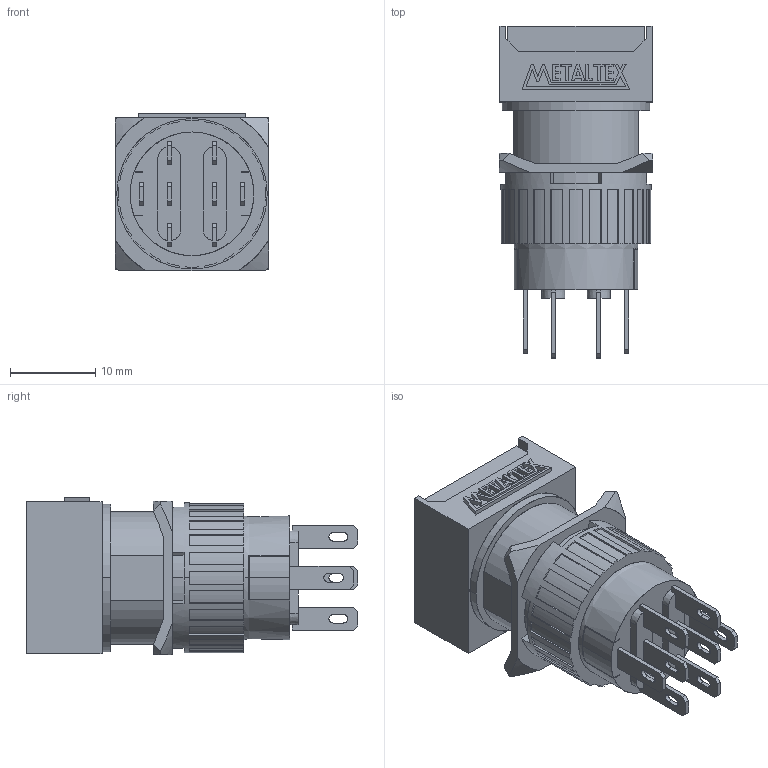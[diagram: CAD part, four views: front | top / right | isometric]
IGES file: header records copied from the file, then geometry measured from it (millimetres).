
Start section: SolidWorks IGES file using analytic representation for surfaces
Global section: file name: D:\X - Arquivos\PROEX\Empresas\P11 - METALTEX\01 - Produtos\IGES\Terceira remessa\Etapa 3\P16-BS.IGS; native system: SolidWorks 2012; preprocessor: SolidWorks 2012; author: Usuario; date: 180215.132208; units: millimetre
Bounding box: 18 x 38.9 x 18.43 mm (x, y, z)
Surface area: 4215.1 mm2 (no closed solid volume)
Topology: 0 solids, 0 shells, 399 faces, 2752 edges, 2752 vertices
Faces by surface type: bspline 314, revolution 85
